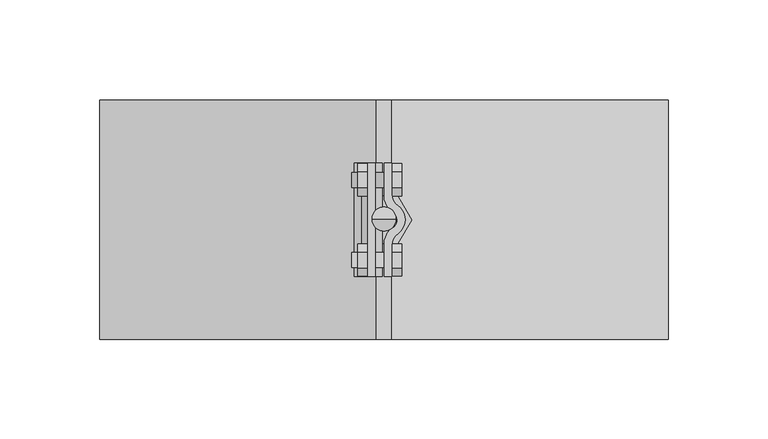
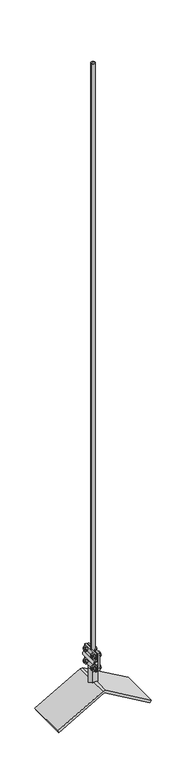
"""IFC4 building model written with IfcOpenShell, lengths in millimetres: proxy geometry, КНС_МолниеприемникКоньковыйСУгловымЗажимом_DKC : NL6200_Алюминий_2м."""

from ifc_helpers import new_model, si_unit, point, frame, frame_2d, origin, origin_with_axes, place, context, project, spatial, polyline, circle_curve, trimmed, segment, composite_curve, outline, extrude, faceted_brep, source, transform, mapped, element, save
from ifc_brep_helpers import plane_surface, cylinder_surface, revolved_surface, advanced_brep


def security_devices_c33634d1(model_context):
    return source(origin(), model_context, "Body", "SolidModel", [
        extrude(outline(composite_curve([segment(trimmed(circle_curve(frame_2d((10.789241, 12.6812156)), 6.789241), [point((4.0, 12.6812156))], [point((6.8983492, 7.1175159))], True, "CARTESIAN"), True, "CONTINUOUS"), segment(trimmed(circle_curve(frame_2d((1.920819, 0.0)), 8.6853232), [point((6.8983492, 7.1175159))], [point((6.9859541, -7.0554409))], False, "CARTESIAN"), True, "CONTINUOUS"), segment(trimmed(circle_curve(frame_2d((11.1637095, -12.8748131)), 7.1637095), [point((6.9859541, -7.0554409))], [point((4.0, -12.8748131))], True, "CARTESIAN"), True, "CONTINUOUS"), segment(polyline([(4.0, -12.8748131), (4.0, -28.5), (0.0, -28.5), (0.0, -12.5161006)]), True, "CONTINUOUS"), segment(trimmed(circle_curve(frame_2d((10.4743481, -12.5161006)), 10.4743481), [point((0.0, -12.5161006))], [point((4.5644151, -3.8682881))], False, "CARTESIAN"), True, "CONTINUOUS"), segment(trimmed(circle_curve(frame_2d((1.920819, 0.0)), 4.6853232), [point((4.5644151, -3.8682881))], [point((4.4330311, 3.954876))], True, "CARTESIAN"), True, "CONTINUOUS"), segment(trimmed(circle_curve(frame_2d((9.5578104, 12.0226128)), 9.5578104), [point((4.4330311, 3.954876))], [point((0.0, 12.0226128))], False, "CARTESIAN"), True, "CONTINUOUS"), segment(polyline([(0.0, 12.0226128), (0.0, 28.5), (4.0, 28.5), (4.0, 12.6812156)]), True, "CONTINUOUS")], self_intersect=False)), frame((0.0, 0.0, 50.0), z_axis=(0.0, 0.0, 1.0), x_axis=(1.0, 0.0, 0.0)), (0.0, 0.0, 1.0), 57.0),
        extrude(outline(polyline([(28.2458472, 58.3748106), (24.1930385, 51.3551401), (16.0874212, 51.3551401), (12.0346126, 58.3748106), (16.0874212, 65.3944811), (24.1930385, 65.3944811), (28.2458472, 58.3748106)])), frame((-13.0687052, 0.0, 0.0), z_axis=(1.0, 0.0, 0.0), x_axis=(0.0, 1.0, 0.0)), (0.0, 0.0, 1.0), 4.795819),
        extrude(outline(polyline([(-28.2458472, 58.3748106), (-24.1930385, 65.3944811), (-16.0874212, 65.3944811), (-12.0346126, 58.3748106), (-16.0874212, 51.3551401), (-24.1930385, 51.3551401), (-28.2458472, 58.3748106)])), frame((-13.0687052, 0.0, 0.0), z_axis=(1.0, 0.0, 0.0), x_axis=(0.0, 1.0, 0.0)), (0.0, 0.0, 1.0), 4.795819),
        extrude(outline(polyline([(28.2458472, 98.6251894), (24.1930385, 91.6055189), (16.0874212, 91.6055189), (12.0346126, 98.6251894), (16.0874212, 105.6448599), (24.1930385, 105.6448599), (28.2458472, 98.6251894)])), frame((-13.0687052, 0.0, 0.0), z_axis=(1.0, 0.0, 0.0), x_axis=(0.0, 1.0, 0.0)), (0.0, 0.0, 1.0), 4.795819),
        extrude(outline(polyline([(-28.2458472, 98.6251894), (-24.1930385, 105.6448599), (-16.0874212, 105.6448599), (-12.0346126, 98.6251894), (-16.0874212, 91.6055189), (-24.1930385, 91.6055189), (-28.2458472, 98.6251894)])), frame((-13.0687052, 0.0, 0.0), z_axis=(1.0, 0.0, 0.0), x_axis=(0.0, 1.0, 0.0)), (0.0, 0.0, 1.0), 4.795819),
        advanced_brep(
        [(4.0, -16.3433514, 58.34375), (4.0, -23.9475129, 58.34375), (4.0, -20.1454322, 58.34375), (-16.204181, -16.3433514, 58.34375), (-16.204181, -23.9475129, 58.34375), (-16.204181, -20.1454322, 58.34375)],
        [
            (0, 1, circle_curve(frame((4.0, -20.1454322, 58.34375), z_axis=(1.0, 0.0, 0.0), x_axis=(0.0, -1.0, 0.0)), 3.8020807)),
            (1, 2),
            (2, 0),
            (1, 0, circle_curve(frame((4.0, -20.1454322, 58.34375), z_axis=(1.0, 0.0, 0.0), x_axis=(0.0, -1.0, 0.0)), 3.8020807)),
            (3, 4, circle_curve(frame((-16.204181, -20.1454322, 58.34375), z_axis=(1.0, 0.0, 0.0), x_axis=(0.0, -1.0, 0.0)), 3.8020807)),
            (4, 1),
            (0, 3),
            (4, 3, circle_curve(frame((-16.204181, -20.1454322, 58.34375), z_axis=(1.0, 0.0, 0.0), x_axis=(0.0, -1.0, 0.0)), 3.8020807)),
            (5, 4),
            (3, 5),
        ],
        [
            plane_surface(frame((4.0, -20.1454322, 58.34375), z_axis=(1.0, 0.0, 0.0), x_axis=(0.0, -1.0, 0.0))),
            cylinder_surface(frame((-3.0634893, -20.1454322, 58.34375), z_axis=(-1.0, 0.0, 0.0), x_axis=(0.0, -1.0, 0.0)), 3.8020807),
            plane_surface(frame((-16.204181, -20.1454322, 58.34375), z_axis=(-1.0, 0.0, 0.0), x_axis=(0.0, -1.0, 0.0))),
        ],
        [
            (0, [[1, 2, 3]]),
            (0, [[4, -3, -2]]),
            (1, [[5, 6, -1, 7]]),
            (1, [[8, -7, -4, -6]]),
            (2, [[9, -5, 10]]),
            (2, [[-10, -8, -9]]),
        ],
    ),
        advanced_brep(
        [(4.0, 20.0282447, 58.34375), (4.0, 23.7994972, 58.34375), (4.0, 16.2569922, 58.34375), (-16.204181, 23.7994972, 58.34375), (-16.204181, 16.2569922, 58.34375), (-16.204181, 20.0282447, 58.34375)],
        [
            (0, 1),
            (1, 2, circle_curve(frame((4.0, 20.0282447, 58.34375), z_axis=(1.0, 0.0, 0.0), x_axis=(0.0, 1.0, 0.0)), 3.7712525)),
            (2, 0),
            (2, 1, circle_curve(frame((4.0, 20.0282447, 58.34375), z_axis=(1.0, 0.0, 0.0), x_axis=(0.0, 1.0, 0.0)), 3.7712525)),
            (1, 3),
            (3, 4, circle_curve(frame((-16.204181, 20.0282447, 58.34375), z_axis=(1.0, 0.0, 0.0), x_axis=(0.0, 1.0, 0.0)), 3.7712525)),
            (4, 2),
            (4, 3, circle_curve(frame((-16.204181, 20.0282447, 58.34375), z_axis=(1.0, 0.0, 0.0), x_axis=(0.0, 1.0, 0.0)), 3.7712525)),
            (3, 5),
            (5, 4),
        ],
        [
            plane_surface(frame((4.0, 20.0282447, 58.34375), z_axis=(1.0, 0.0, 0.0), x_axis=(0.0, 1.0, 0.0))),
            cylinder_surface(frame((-3.0634893, 20.0282447, 58.34375), z_axis=(1.0, 0.0, 0.0), x_axis=(0.0, 1.0, 0.0)), 3.7712525),
            plane_surface(frame((-16.204181, 20.0282447, 58.34375), z_axis=(-1.0, 0.0, 0.0), x_axis=(0.0, 1.0, 0.0))),
        ],
        [
            (0, [[1, 2, 3]]),
            (0, [[-3, 4, -1]]),
            (1, [[-2, 5, 6, 7]]),
            (1, [[-4, -7, 8, -5]]),
            (2, [[-6, 9, 10]]),
            (2, [[-8, -10, -9]]),
        ],
    ),
        advanced_brep(
        [(4.0, -20.1454322, 98.65625), (4.0, -23.9475129, 98.65625), (4.0, -16.3433514, 98.65625), (-16.204181, -23.9475129, 98.65625), (-16.204181, -16.3433514, 98.65625), (-16.204181, -20.1454322, 98.65625)],
        [
            (0, 1),
            (1, 2, circle_curve(frame((4.0, -20.1454322, 98.65625), z_axis=(1.0, 0.0, 0.0), x_axis=(0.0, -1.0, 0.0)), 3.8020807)),
            (2, 0),
            (2, 1, circle_curve(frame((4.0, -20.1454322, 98.65625), z_axis=(1.0, 0.0, 0.0), x_axis=(0.0, -1.0, 0.0)), 3.8020807)),
            (1, 3),
            (3, 4, circle_curve(frame((-16.204181, -20.1454322, 98.65625), z_axis=(1.0, 0.0, 0.0), x_axis=(0.0, -1.0, 0.0)), 3.8020807)),
            (4, 2),
            (4, 3, circle_curve(frame((-16.204181, -20.1454322, 98.65625), z_axis=(1.0, 0.0, 0.0), x_axis=(0.0, -1.0, 0.0)), 3.8020807)),
            (3, 5),
            (5, 4),
        ],
        [
            plane_surface(frame((4.0, -20.1454322, 98.65625), z_axis=(1.0, 0.0, 0.0), x_axis=(0.0, -1.0, 0.0))),
            cylinder_surface(frame((-3.0634893, -20.1454322, 98.65625), z_axis=(1.0, 0.0, 0.0), x_axis=(0.0, -1.0, 0.0)), 3.8020807),
            plane_surface(frame((-16.204181, -20.1454322, 98.65625), z_axis=(-1.0, 0.0, 0.0), x_axis=(0.0, -1.0, 0.0))),
        ],
        [
            (0, [[1, 2, 3]]),
            (0, [[-3, 4, -1]]),
            (1, [[-2, 5, 6, 7]]),
            (1, [[-4, -7, 8, -5]]),
            (2, [[-6, 9, 10]]),
            (2, [[-8, -10, -9]]),
        ],
    ),
        advanced_brep(
        [(4.0, 16.2569922, 98.65625), (4.0, 23.7994972, 98.65625), (4.0, 20.0282447, 98.65625), (-16.204181, 16.2569922, 98.65625), (-16.204181, 23.7994972, 98.65625), (-16.204181, 20.0282447, 98.65625)],
        [
            (0, 1, circle_curve(frame((4.0, 20.0282447, 98.65625), z_axis=(1.0, 0.0, 0.0), x_axis=(0.0, 1.0, 0.0)), 3.7712525)),
            (1, 2),
            (2, 0),
            (1, 0, circle_curve(frame((4.0, 20.0282447, 98.65625), z_axis=(1.0, 0.0, 0.0), x_axis=(0.0, 1.0, 0.0)), 3.7712525)),
            (3, 4, circle_curve(frame((-16.204181, 20.0282447, 98.65625), z_axis=(1.0, 0.0, 0.0), x_axis=(0.0, 1.0, 0.0)), 3.7712525)),
            (4, 1),
            (0, 3),
            (4, 3, circle_curve(frame((-16.204181, 20.0282447, 98.65625), z_axis=(1.0, 0.0, 0.0), x_axis=(0.0, 1.0, 0.0)), 3.7712525)),
            (5, 4),
            (3, 5),
        ],
        [
            plane_surface(frame((4.0, 20.0282447, 98.65625), z_axis=(1.0, 0.0, 0.0), x_axis=(0.0, 1.0, 0.0))),
            cylinder_surface(frame((-3.0634893, 20.0282447, 98.65625), z_axis=(-1.0, 0.0, 0.0), x_axis=(0.0, 1.0, 0.0)), 3.7712525),
            plane_surface(frame((-16.204181, 20.0282447, 98.65625), z_axis=(-1.0, 0.0, 0.0), x_axis=(0.0, 1.0, 0.0))),
        ],
        [
            (0, [[1, 2, 3]]),
            (0, [[4, -3, -2]]),
            (1, [[5, 6, -1, 7]]),
            (1, [[8, -7, -4, -6]]),
            (2, [[9, -5, 10]]),
            (2, [[-10, -8, -9]]),
        ],
    ),
        extrude(outline(polyline([(28.2458472, 58.3748106), (24.1930385, 51.3551401), (16.0874212, 51.3551401), (12.0346126, 58.3748106), (16.0874212, 65.3944811), (24.1930385, 65.3944811), (28.2458472, 58.3748106)])), frame((4.0, 0.0, 0.0), z_axis=(1.0, 0.0, 0.0), x_axis=(0.0, 1.0, 0.0)), (0.0, 0.0, 1.0), 4.795819),
        extrude(outline(polyline([(-28.2458472, 58.3748106), (-24.1930385, 65.3944811), (-16.0874212, 65.3944811), (-12.0346126, 58.3748106), (-16.0874212, 51.3551401), (-24.1930385, 51.3551401), (-28.2458472, 58.3748106)])), frame((4.0, 0.0, 0.0), z_axis=(1.0, 0.0, 0.0), x_axis=(0.0, 1.0, 0.0)), (0.0, 0.0, 1.0), 4.795819),
        extrude(outline(polyline([(28.2458472, 98.6251894), (24.1930385, 91.6055189), (16.0874212, 91.6055189), (12.0346126, 98.6251894), (16.0874212, 105.6448599), (24.1930385, 105.6448599), (28.2458472, 98.6251894)])), frame((4.0, 0.0, 0.0), z_axis=(1.0, 0.0, 0.0), x_axis=(0.0, 1.0, 0.0)), (0.0, 0.0, 1.0), 4.795819),
        extrude(outline(polyline([(-28.2458472, 98.6251894), (-24.1930385, 105.6448599), (-16.0874212, 105.6448599), (-12.0346126, 98.6251894), (-16.0874212, 91.6055189), (-24.1930385, 91.6055189), (-28.2458472, 98.6251894)])), frame((4.0, 0.0, 0.0), z_axis=(1.0, 0.0, 0.0), x_axis=(0.0, 1.0, 0.0)), (0.0, 0.0, 1.0), 4.795819),
        extrude(outline(composite_curve([segment(trimmed(circle_curve(frame_2d((91.1812156, -15.0621272)), 6.789241), [point((91.1812156, -8.2728862))], [point((85.6175159, -11.1712355))], True, "CARTESIAN"), True, "CONTINUOUS"), segment(trimmed(circle_curve(frame_2d((78.5, -6.1937052)), 8.6853232), [point((85.6175159, -11.1712355))], [point((71.4445591, -11.2588403))], False, "CARTESIAN"), True, "CONTINUOUS"), segment(trimmed(circle_curve(frame_2d((65.6251869, -15.4365957)), 7.1637095), [point((71.4445591, -11.2588403))], [point((65.6251869, -8.2728862))], True, "CARTESIAN"), True, "CONTINUOUS"), segment(polyline([(65.6251869, -8.2728862), (50.0, -8.2728862), (50.0, -4.2728862), (65.9838994, -4.2728862)]), True, "CONTINUOUS"), segment(trimmed(circle_curve(frame_2d((65.9838994, -14.7472343)), 10.4743481), [point((65.9838994, -4.2728862))], [point((74.6317119, -8.8373014))], False, "CARTESIAN"), True, "CONTINUOUS"), segment(trimmed(circle_curve(frame_2d((78.5, -6.1937052)), 4.6853232), [point((74.6317119, -8.8373014))], [point((82.454876, -8.7059174))], True, "CARTESIAN"), True, "CONTINUOUS"), segment(trimmed(circle_curve(frame_2d((90.5226128, -13.8306966)), 9.5578104), [point((82.454876, -8.7059174))], [point((90.5226128, -4.2728862))], False, "CARTESIAN"), True, "CONTINUOUS"), segment(polyline([(90.5226128, -4.2728862), (107.0, -4.2728862), (107.0, -8.2728862), (91.1812156, -8.2728862)]), True, "CONTINUOUS")], self_intersect=False)), frame((0.0, -28.5, 0.0), z_axis=(0.0, 1.0, 0.0), x_axis=(0.0, 0.0, 1.0)), (0.0, 0.0, 1.0), 57.0),
        advanced_brep(
        [(-6.0, 0.0, 0.0), (6.0, 0.0, 0.0), (6.0, 0.0, 1996.5358984), (-6.0, 0.0, 1996.5358984), (0.0, 0.0, 2000.0)],
        [
            (0, 1, circle_curve(frame((0.0, 0.0, 0.0), z_axis=(0.0, 0.0, -1.0), x_axis=(1.0, 0.0, 0.0)), 6.0)),
            (1, 0, circle_curve(frame((0.0, 0.0, 0.0), z_axis=(0.0, 0.0, -1.0), x_axis=(1.0, 0.0, 0.0)), 6.0)),
            (1, 2),
            (2, 3, circle_curve(frame((0.0, 0.0, 1996.5358984), z_axis=(0.0, 0.0, -1.0), x_axis=(1.0, 0.0, 0.0)), 6.0)),
            (3, 0),
            (3, 2, circle_curve(frame((0.0, 0.0, 1996.5358984), z_axis=(0.0, 0.0, -1.0), x_axis=(1.0, 0.0, 0.0)), 6.0)),
            (3, 4),
            (4, 2),
        ],
        [
            plane_surface(frame((6.0, 0.0, 0.0), z_axis=(0.0, 0.0, -1.0), x_axis=(0.0, -1.0, 0.0))),
            cylinder_surface(origin_with_axes(), 6.0),
            revolved_surface(polyline([(12.9903811, 0.0, 1992.5), (0.0, 0.0, 2000.0)]), (0.0, 0.0, 4938.9550208), (0.0, 0.0, 1.0)),
        ],
        [
            (0, [[1, 2]]),
            (1, [[-2, 3, 4, 5]]),
            (1, [[-1, -5, 6, -3]]),
            (2, [[7, 8, -6]]),
            (2, [[-7, -4, -8]]),
        ],
    ),
        extrude(outline(composite_curve([segment(trimmed(circle_curve(frame_2d((78.5786753, -5.8783678)), 5.0), [point((78.5786753, -10.8783678))], [point((78.5786753, -0.8783678))], False, "CARTESIAN"), True, "CONTINUOUS"), segment(trimmed(circle_curve(frame_2d((78.5786753, -5.8783678)), 5.0), [point((78.5786753, -0.8783678))], [point((78.5786753, -10.8783678))], False, "CARTESIAN"), True, "CONTINUOUS")], self_intersect=False)), frame((0.0, -28.5, 0.0), z_axis=(0.0, 1.0, 0.0), x_axis=(0.0, 0.0, 1.0)), (0.0, 0.0, 1.0), 57.0),
        faceted_brep([(-138.5640646, -60.0, -80.0), (0.0, -60.0, 0.0), (138.5640646, -60.0, -80.0), (142.5640646, -60.0, -73.0717968), (4.0, -60.0, 6.9282032), (-4.0, -60.0, 6.9282032), (-142.5640646, -60.0, -73.0717968), (-138.5640646, 60.0, -80.0), (-142.5640646, 60.0, -73.0717968), (-4.0, 60.0, 6.9282032), (4.0, 60.0, 6.9282032), (142.5640646, 60.0, -73.0717968), (138.5640646, 60.0, -80.0), (0.0, 60.0, 0.0), (0.0, 12.0, 0.0), (0.0, -12.0, 0.0), (4.0, 12.0, 6.9282032), (6.9282032, 12.0, 5.2376043), (13.8564065, 0.0, 1.2376043), (6.9282032, -12.0, 5.2376043), (4.0, -12.0, 6.9282032), (-4.0, -12.0, 6.9282032), (-4.0, 12.0, 6.9282032), (-6.9282032, -12.0, 5.2376043), (-13.8564065, 0.0, 1.2376043), (-6.9282032, 12.0, 5.2376043), (-13.8564065, 0.0, 50.0), (-6.9282032, -12.0, 50.0), (6.9282032, -12.0, 50.0), (13.8564065, 0.0, 50.0), (6.9282032, 12.0, 50.0), (-6.9282032, 12.0, 50.0)], [[[0, 1, 2, 3, 4, 5, 6]], [[7, 8, 9, 10, 11, 12, 13]], [[1, 0, 7, 13, 14, 15]], [[2, 1, 15, 14, 13, 12]], [[3, 2, 12, 11]], [[4, 3, 11, 10, 16, 17, 18, 19, 20]], [[5, 4, 20, 21]], [[10, 9, 22, 16]], [[6, 5, 21, 23, 24, 25, 22, 9, 8]], [[0, 6, 8, 7]], [[26, 27, 28, 29, 30, 31]], [[27, 26, 24, 23]], [[28, 27, 23, 21, 20, 19]], [[29, 28, 19, 18]], [[30, 29, 18, 17]], [[31, 30, 17, 16, 22, 25]], [[26, 31, 25, 24]]]),
    ])


if __name__ == "__main__":
    model = new_model("IFC4")
    model_context = context("Model", 3, world=origin())
    ifc_project = project(units=[si_unit("LENGTHUNIT", "METRE", prefix="MILLI")], contexts=[model_context])
    site = spatial("IfcSite", under=ifc_project)
    building = spatial("IfcBuilding", under=site)
    placement = place(None, origin())
    security_devices_shape = security_devices_c33634d1(model_context)
    element("IfcBuildingElementProxy", 1, Name="КНС_МолниеприемникКоньковыйСУгловымЗажимом_DKC : NL6200_Алюминий_2м", ObjectType="КНС_МолниеприемникКоньковыйСУгловымЗажимом_DKC : NL6200_Алюминий_2м", at=placement, inside=building, context=model_context, shape_type="MappedRepresentation", body=[
        mapped(security_devices_shape, transform((0.0, 0.0, 0.0), x_axis=(1.0, 0.0, 0.0), y_axis=(0.0, 1.0, 0.0), z_axis=(0.0, 0.0, 1.0))),
    ])
    save(model, "model.ifc")
